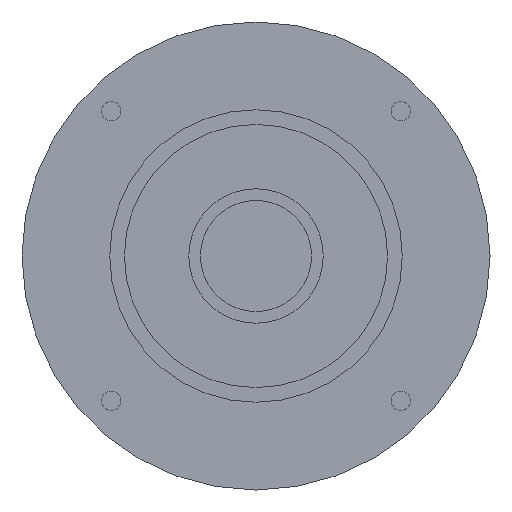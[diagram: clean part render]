
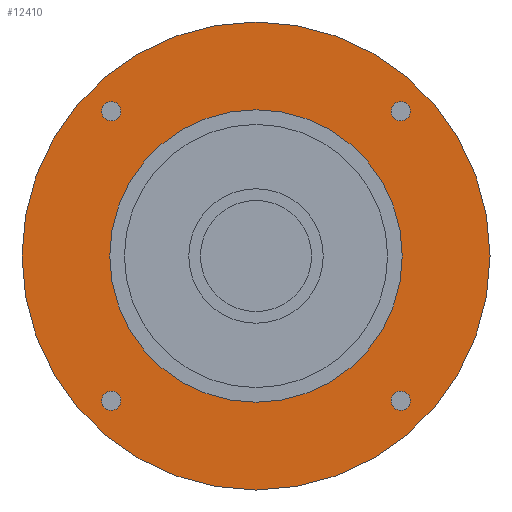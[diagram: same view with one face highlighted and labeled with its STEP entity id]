
A CAD part, left-side view. The second image highlights one B-rep face of the part: STEP entity #12410.
In plain terms, the highlighted planar face has unit normal (-1, 0, 0) as drawn and (0, 0, -1) by its records, which use the part's own axes.
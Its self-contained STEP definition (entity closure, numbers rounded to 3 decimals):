
#8870=CARTESIAN_POINT('',(-26.399,24.749,-42.2));
#8880=VERTEX_POINT('',#8870);
#9060=CARTESIAN_POINT('',(-23.099,24.749,-42.2));
#9070=VERTEX_POINT('',#9060);
#9100=CARTESIAN_POINT('',(-24.749,24.749,-42.2));
#9110=DIRECTION('',(0.,0.,-1.));
#9120=DIRECTION('',(1.,0.,0.));
#9130=AXIS2_PLACEMENT_3D('',#9100,#9110,#9120);
#9140=CIRCLE('',#9130,1.65);
#9150=EDGE_CURVE('',#8880,#9070,#9140,.T.);
#9290=CARTESIAN_POINT('',(23.099,24.749,-42.2));
#9300=VERTEX_POINT('',#9290);
#9480=CARTESIAN_POINT('',(26.399,24.749,-42.2));
#9490=VERTEX_POINT('',#9480);
#9520=CARTESIAN_POINT('',(24.749,24.749,-42.2));
#9530=DIRECTION('',(0.,0.,-1.));
#9540=DIRECTION('',(1.,0.,0.));
#9550=AXIS2_PLACEMENT_3D('',#9520,#9530,#9540);
#9560=CIRCLE('',#9550,1.65);
#9570=EDGE_CURVE('',#9300,#9490,#9560,.T.);
#11530=CARTESIAN_POINT('',(-40.,0.,-42.2));
#11540=VERTEX_POINT('',#11530);
#11570=CARTESIAN_POINT('',(0.,0.,
-42.2));
#11580=DIRECTION('',(0.,0.,-1.));
#11590=DIRECTION('',(1.,0.,0.));
#11600=AXIS2_PLACEMENT_3D('',#11570,#11580,#11590);
#11610=CIRCLE('',#11600,40.);
#11620=CARTESIAN_POINT('',(40.,0.,-42.2));
#11630=VERTEX_POINT('',#11620);
#11640=EDGE_CURVE('',#11540,#11630,#11610,.T.);
#11760=CARTESIAN_POINT('',(0.,0.,
-42.2));
#11770=DIRECTION('',(0.,0.,1.));
#11780=DIRECTION('',(1.,0.,0.));
#11790=AXIS2_PLACEMENT_3D('',#11760,#11770,#11780);
#11800=PLANE('',#11790);
#11810=CARTESIAN_POINT('',(24.749,-24.749,-42.2));
#11820=DIRECTION('',(0.,0.,-1.));
#11830=DIRECTION('',(1.,0.,0.));
#11840=AXIS2_PLACEMENT_3D('',#11810,#11820,#11830);
#11850=CIRCLE('',#11840,1.65);
#11860=CARTESIAN_POINT('',(26.399,-24.749,-42.2));
#11870=VERTEX_POINT('',#11860);
#11880=CARTESIAN_POINT('',(23.099,-24.749,-42.2));
#11890=VERTEX_POINT('',#11880);
#11900=EDGE_CURVE('',#11870,#11890,#11850,.T.);
#11910=ORIENTED_EDGE('',*,*,#11900,.F.);
#11920=EDGE_CURVE('',#11890,#11870,#11850,.T.);
#11930=ORIENTED_EDGE('',*,*,#11920,.F.);
#11940=EDGE_LOOP('',(#11930,#11910));
#11950=FACE_BOUND('',#11940,.T.);
#11960=CARTESIAN_POINT('',(0.,0.,
-42.2));
#11970=DIRECTION('',(0.,0.,1.));
#11980=DIRECTION('',(-1.,0.,0.));
#11990=AXIS2_PLACEMENT_3D('',#11960,#11970,#11980);
#12000=CIRCLE('',#11990,25.);
#12010=CARTESIAN_POINT('',(-25.,0.,-42.2));
#12020=VERTEX_POINT('',#12010);
#12030=CARTESIAN_POINT('',(25.,0.,-42.2));
#12040=VERTEX_POINT('',#12030);
#12050=EDGE_CURVE('',#12020,#12040,#12000,.T.);
#12060=ORIENTED_EDGE('',*,*,#12050,.T.);
#12070=EDGE_CURVE('',#12040,#12020,#12000,.T.);
#12080=ORIENTED_EDGE('',*,*,#12070,.T.);
#12090=EDGE_LOOP('',(#12080,#12060));
#12100=FACE_BOUND('',#12090,.T.);
#12110=CARTESIAN_POINT('',(-24.749,-24.749,-42.2));
#12120=DIRECTION('',(0.,0.,-1.));
#12130=DIRECTION('',(1.,0.,0.));
#12140=AXIS2_PLACEMENT_3D('',#12110,#12120,#12130);
#12150=CIRCLE('',#12140,1.65);
#12160=CARTESIAN_POINT('',(-23.099,-24.749,-42.2));
#12170=VERTEX_POINT('',#12160);
#12180=CARTESIAN_POINT('',(-26.399,-24.749,-42.2));
#12190=VERTEX_POINT('',#12180);
#12200=EDGE_CURVE('',#12170,#12190,#12150,.T.);
#12210=ORIENTED_EDGE('',*,*,#12200,.F.);
#12220=EDGE_CURVE('',#12190,#12170,#12150,.T.);
#12230=ORIENTED_EDGE('',*,*,#12220,.F.);
#12240=EDGE_LOOP('',(#12230,#12210));
#12250=FACE_BOUND('',#12240,.T.);
#12260=EDGE_CURVE('',#9070,#8880,#9140,.T.);
#12270=ORIENTED_EDGE('',*,*,#12260,.F.);
#12280=ORIENTED_EDGE('',*,*,#9150,.F.);
#12290=EDGE_LOOP('',(#12280,#12270));
#12300=FACE_BOUND('',#12290,.T.);
#12310=EDGE_CURVE('',#9490,#9300,#9560,.T.);
#12320=ORIENTED_EDGE('',*,*,#12310,.F.);
#12330=ORIENTED_EDGE('',*,*,#9570,.F.);
#12340=EDGE_LOOP('',(#12330,#12320));
#12350=FACE_BOUND('',#12340,.T.);
#12360=EDGE_CURVE('',#11630,#11540,#11610,.T.);
#12370=ORIENTED_EDGE('',*,*,#12360,.T.);
#12380=ORIENTED_EDGE('',*,*,#11640,.T.);
#12390=EDGE_LOOP('',(#12380,#12370));
#12400=FACE_OUTER_BOUND('',#12390,.T.);
#12410=ADVANCED_FACE('',(#11950,#12100,#12250,#12300,#12350,#12400),
#11800,.F.);
